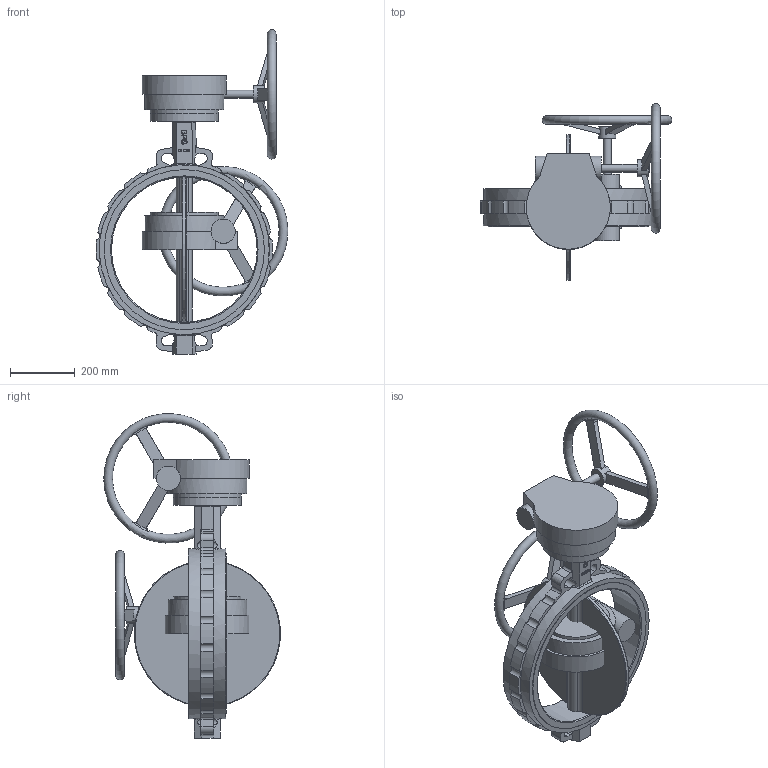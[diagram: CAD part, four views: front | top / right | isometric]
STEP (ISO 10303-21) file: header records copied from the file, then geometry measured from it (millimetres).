
FILE_DESCRIPTION( ( 'Unknown' ), '1' );
FILE_NAME( 'R:/ECCUA/ROOTSI BPS 3D vidinad/Poordklapid Wafer type/Butterfly valve(wafer) with gearbox BPS/STEP formaat/BPS 2303450 butterfly valve DN450.stp', 'Unknown', ( 'Unknown' ), ( 'Unknown' ), 'PSStep 10.1', 'Unknown', ' ' );
FILE_SCHEMA( ( 'AUTOMOTIVE_DESIGN { 1 0 10303 214 1 1 1 1 }' ) );
Length unit declared in the file: millimetre
Products named in the file (3): Assem1; Butterfly valve wafer type DN450 BPS; Gearbox DN450 BPS
Bounding box: 592.24 x 545.15 x 1002.54 mm (x, y, z)
Volume: 38832773.5 mm3; surface area: 2801455.6 mm2
Topology: 4 solids, 4 shells, 594 faces, 1650 edges, 1090 vertices
Faces by surface type: plane 200, cylinder 194, extrusion 112, bspline 66, torus 18, cone 4
Full cylindrical faces by diameter (mm): 22 x8, 25 x4, 53 x2, 75 x2, 210 x4, 245 x2, 450 x2, 495 x4, 525 x4
Entity records: 17719 total; most frequent: CARTESIAN_POINT 8107, ORIENTED_EDGE 1580, DIRECTION 1307, EDGE_CURVE 790, VERTEX_POINT 534, AXIS2_PLACEMENT_3D 457, VECTOR 393, EDGE_LOOP 358
